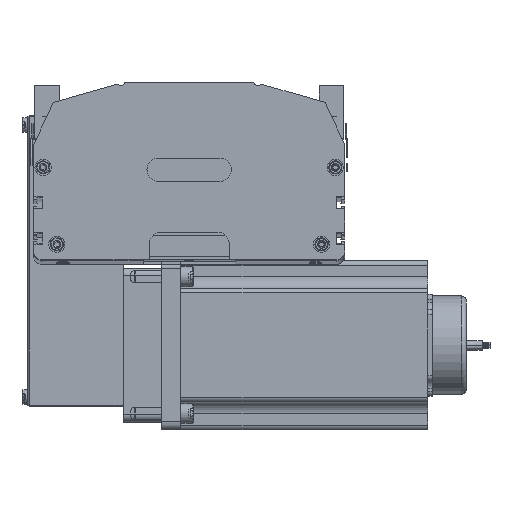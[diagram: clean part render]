
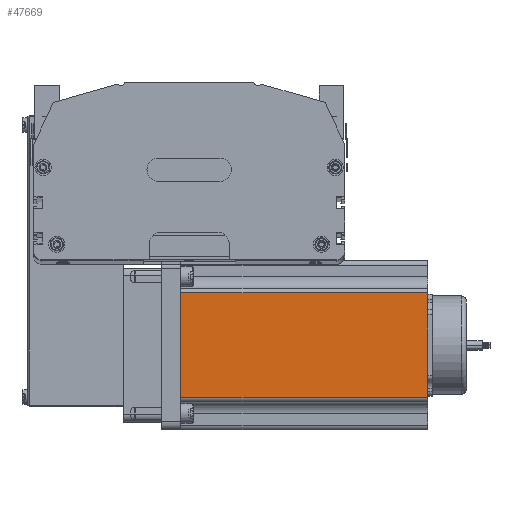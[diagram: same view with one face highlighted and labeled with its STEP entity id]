
A CAD part, top view. The second image highlights one B-rep face of the part: STEP entity #47669.
In plain terms, the highlighted planar face has unit normal (0, 0, 1) as drawn and (0, -1, 0) by its records, which use the part's own axes.
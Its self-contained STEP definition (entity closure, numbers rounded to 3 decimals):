
#47669 = ADVANCED_FACE ( 'NONE', ( #73170 ), #73169, .F. ) ;
#47670 = ORIENTED_EDGE ( 'NONE', *, *, #47671, .T. ) ;
#47671 = EDGE_CURVE ( 'NONE', #47723, #47806, #73152, .T. ) ;
#47672 = EDGE_CURVE ( 'NONE', #47692, #47723, #73151, .T. ) ;
#47675 = ORIENTED_EDGE ( 'NONE', *, *, #47676, .F. ) ;
#47676 = EDGE_CURVE ( 'NONE', #47681, #47806, #73192, .T. ) ;
#47681 = VERTEX_POINT ( 'NONE', #73189 ) ;
#47692 = VERTEX_POINT ( 'NONE', #73191 ) ;
#47713 = ORIENTED_EDGE ( 'NONE', *, *, #47672, .T. ) ;
#47723 = VERTEX_POINT ( 'NONE', #73216 ) ;
#47725 = EDGE_LOOP ( 'NONE', ( #47713, #47670, #47675, #47783 ) ) ;
#47781 = EDGE_CURVE ( 'NONE', #47681, #47692, #73316, .T. ) ;
#47783 = ORIENTED_EDGE ( 'NONE', *, *, #47781, .T. ) ;
#47806 = VERTEX_POINT ( 'NONE', #73267 ) ;
#73126 = DIRECTION ( 'NONE',  ( 0., 1., 0. ) ) ;
#73127 = CARTESIAN_POINT ( 'NONE',  ( 0., 0., 160.5 ) ) ;
#73150 = DIRECTION ( 'NONE',  ( 0., 0., 1. ) ) ;
#73151 = LINE ( 'NONE', #73195, #73194 ) ;
#73152 = LINE ( 'NONE', #73156, #73199 ) ;
#73153 = AXIS2_PLACEMENT_3D ( 'NONE', #73127, #73126, #73150 ) ;
#73156 = CARTESIAN_POINT ( 'NONE',  ( 88.952, 0., 160.5 ) ) ;
#73169 = PLANE ( 'NONE',  #73153 ) ;
#73170 = FACE_OUTER_BOUND ( 'NONE', #47725, .T. ) ;
#73185 = DIRECTION ( 'NONE',  ( 1., 0., 0. ) ) ;
#73189 = CARTESIAN_POINT ( 'NONE',  ( 21.048, 0., 160.5 ) ) ;
#73191 = CARTESIAN_POINT ( 'NONE',  ( 21.048, 0., 0. ) ) ;
#73192 = LINE ( 'NONE', #73196, #73200 ) ;
#73193 = DIRECTION ( 'NONE',  ( 1., 0., 0. ) ) ;
#73194 = VECTOR ( 'NONE', #73193, 1000. ) ;
#73195 = CARTESIAN_POINT ( 'NONE',  ( 0., 0., 0. ) ) ;
#73196 = CARTESIAN_POINT ( 'NONE',  ( 0., 0., 160.5 ) ) ;
#73198 = DIRECTION ( 'NONE',  ( 0., 0., 1. ) ) ;
#73199 = VECTOR ( 'NONE', #73198, 1000. ) ;
#73200 = VECTOR ( 'NONE', #73185, 1000. ) ;
#73216 = CARTESIAN_POINT ( 'NONE',  ( 88.952, 0., 0. ) ) ;
#73267 = CARTESIAN_POINT ( 'NONE',  ( 88.952, 0., 160.5 ) ) ;
#73271 = DIRECTION ( 'NONE',  ( 0., 0., -1. ) ) ;
#73272 = VECTOR ( 'NONE', #73271, 1000. ) ;
#73315 = CARTESIAN_POINT ( 'NONE',  ( 21.048, 0., 160.5 ) ) ;
#73316 = LINE ( 'NONE', #73315, #73272 ) ;
